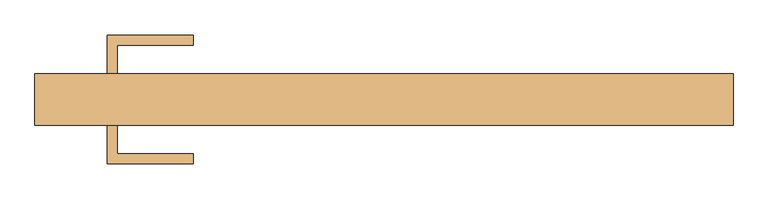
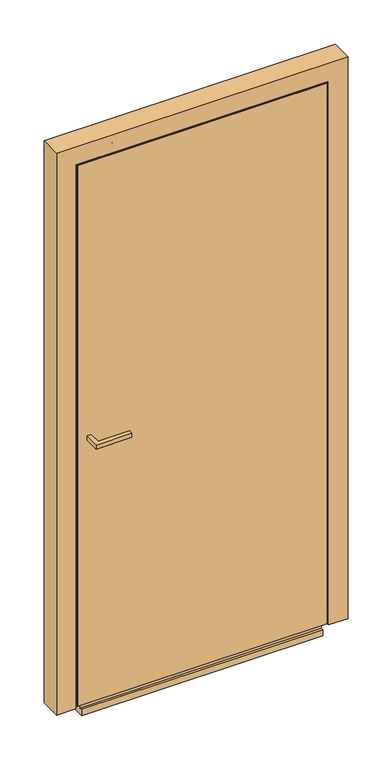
"""IFC4 building model written with IfcOpenShell, lengths in millimetres: door geometry, Reynaers_MasterLine 8_Door_Pivot_Inward Opening_Single Vent_Panel : Reynaers_MasterLine 8_Door_Pivot_Inward Opening_Single Vent_Panel."""

from ifc_helpers import new_model, si_unit, frame, origin, origin_with_axes, place, context, project, spatial, polyline, circle_curve, ellipse_curve, outline, extrude, faceted_brep, source, transform, mapped, element, save
from ifc_brep_helpers import plane_surface, revolved_surface, advanced_brep


def door_040fce94(model_context):
    return source(origin(), model_context, "Body", "SolidModel", [
        extrude(outline(polyline([(-412.0, -27.0), (-397.0, -27.0), (-397.0, -69.5), (-284.5, -69.5), (-284.5, -84.5), (-412.0, -84.5), (-412.0, -27.0)])), frame((0.0, 0.0, 1000.0), z_axis=(0.0, 0.0, 1.0), x_axis=(1.0, 0.0, 0.0)), (0.0, 0.0, 1.0), 15.0),
        extrude(outline(polyline([(-412.0, 50.0), (-412.0, 107.5), (-284.5, 107.5), (-284.5, 92.5), (-397.0, 92.5), (-397.0, 50.0), (-412.0, 50.0)])), frame((0.0, 0.0, 1000.0), z_axis=(0.0, 0.0, 1.0), x_axis=(1.0, 0.0, 0.0)), (0.0, 0.0, 1.0), 15.0),
        extrude(outline(polyline([(-430.5, 7.9556368), (430.5, 7.9556368), (430.5, -16.0443635), (-430.5, -16.0443635), (-430.5, 7.9556368)])), origin_with_axes(), (0.0, 0.0, 1.0), 29.0),
        advanced_brep(
        [(-277.0, 49.9998135, 2056.5000055), (-277.0, 49.9998135, 2025.5000055), (-277.0, 41.2, 2025.5000055), (-277.0, 41.2, 2027.6677934), (-277.0, 40.0850084, 2030.5), (-277.0, -18.2000028, 2030.5), (-277.0, -18.2000028, 2056.5000055), (471.5, 49.9998135, 0.0), (471.5, 46.2008135, 0.0), (456.5000055, 46.2008135, 0.0), (456.5000055, -18.2000028, 0.0), (430.5, -18.2000028, 0.0), (430.5, 40.0850084, 0.0), (427.6677934, 41.2, 0.0), (425.5000055, 41.2, 0.0), (425.5000055, 49.9998135, 0.0), (471.5, 49.9998135, 2071.5), (-200.0, 49.9998135, 2071.5), (-200.0, 46.2008135, 2071.5), (471.5, 46.2008135, 2071.5), (-200.0, 46.2008135, 2056.5000055), (456.5000055, 46.2008135, 2056.5000055), (456.5000055, -18.2000028, 2056.5000055), (-200.0, 49.9998135, 2056.5000055), (430.5, -18.2000028, 2030.5), (430.5, 40.0850084, 2030.5), (427.6677934, 41.2, 2027.6677934), (425.5000055, 41.2, 2025.5000055), (425.5000055, 49.9998135, 2025.5000055)],
        [
            (0, 1),
            (1, 2),
            (2, 3),
            (3, 4, circle_curve(frame((-277.0, 41.7014065, 2029.5007685), z_axis=(1.0, 0.0, 0.0), x_axis=(0.0, 0.0, -1.0)), 1.9003175)),
            (4, 5),
            (5, 6),
            (6, 0),
            (7, 8),
            (8, 9),
            (9, 10),
            (10, 11),
            (11, 12),
            (12, 13, circle_curve(frame((429.5007685, 41.7014065, 0.0), z_axis=(0.0, 0.0, 1.0), x_axis=(-1.0, 0.0, 0.0)), 1.9003175)),
            (13, 14),
            (14, 15),
            (15, 7),
            (16, 17),
            (17, 18),
            (18, 19),
            (19, 16),
            (8, 19),
            (18, 20),
            (20, 21),
            (21, 9),
            (6, 22),
            (22, 21),
            (20, 23),
            (23, 0),
            (5, 24),
            (24, 11),
            (10, 22),
            (4, 25),
            (25, 24),
            (3, 26),
            (26, 25, ellipse_curve(frame((429.5007685, 41.7014065, 2029.5007685), z_axis=(0.7071067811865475, 0.0, -0.7071067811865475), x_axis=(0.7071067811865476, 0.0, 0.7071067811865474)), 2.6874548, 1.9003175)),
            (2, 27),
            (27, 14),
            (13, 26),
            (1, 28),
            (28, 27),
            (15, 28),
            (23, 17),
            (16, 7),
            (25, 12),
        ],
        [
            plane_surface(frame((-277.0, 50.0, 2019.5), z_axis=(-1.0, 0.0, 0.0), x_axis=(0.0, -1.0, 0.0))),
            plane_surface(frame((419.5, 50.0, 0.0), z_axis=(0.0, 0.0, -1.0), x_axis=(0.0, -1.0, 0.0))),
            plane_surface(frame((-277.0, 49.9998135, 2071.5), z_axis=(0.0, 0.0, 1.0), x_axis=(1.0, 0.0, 0.0))),
            plane_surface(frame((-277.0, 46.2008135, 2071.5), z_axis=(0.0, -1.0, 0.0), x_axis=(1.0, 0.0, 0.0))),
            plane_surface(frame((-277.0, 46.2008135, 2056.5000055), z_axis=(0.0, 0.0, 1.0), x_axis=(1.0, 0.0, 0.0))),
            plane_surface(frame((-277.0, -18.2000028, 2056.5000055), z_axis=(0.0, -1.0, 0.0), x_axis=(1.0, 0.0, 0.0))),
            plane_surface(frame((-277.0, -18.2000028, 2030.5), z_axis=(0.0, 0.0, -1.0), x_axis=(1.0, 0.0, 0.0))),
            revolved_surface(polyline([(431.4010860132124, 41.7014065, 2027.600451), (-277.0, 41.7014065, 2027.600451)]), (-277.0, 41.7014065, 2029.5007685), (1.0, 0.0, 0.0)),
            plane_surface(frame((-277.0, 41.2, 2027.6677934), z_axis=(0.0, -1.0, 0.0), x_axis=(1.0, 0.0, 0.0))),
            plane_surface(frame((-277.0, 41.2, 2025.5000055), z_axis=(0.0, 0.0, -1.0), x_axis=(1.0, 0.0, 0.0))),
            plane_surface(frame((-277.0, 49.9998135, 2025.5000055), z_axis=(0.0, 1.0, 0.0), x_axis=(1.0, 0.0, 0.0))),
            plane_surface(frame((471.5, 49.9998135, 2071.5), z_axis=(1.0, 0.0, 0.0), x_axis=(0.0, 0.0, -1.0))),
            plane_surface(frame((456.5000055, 46.2008135, 2056.5000055), z_axis=(1.0, 0.0, 0.0), x_axis=(0.0, 0.0, -1.0))),
            plane_surface(frame((430.5, -18.2000028, 2030.5), z_axis=(-1.0, 0.0, 0.0), x_axis=(0.0, 0.0, -1.0))),
            revolved_surface(polyline([(427.60045099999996, 41.7014065, 0.0), (427.60045099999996, 41.7014065, 2031.4010860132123)]), (429.5007685, 41.7014065, 2019.5), (0.0, 0.0, -1.0)),
            plane_surface(frame((425.5000055, 41.2, 2025.5000055), z_axis=(-1.0, 0.0, 0.0), x_axis=(0.0, 0.0, -1.0))),
            plane_surface(frame((-200.0, 50.0, 2019.5), z_axis=(-1.0, 0.0, 0.0), x_axis=(0.0, -1.0, 0.0))),
        ],
        [
            (0, [[1, 2, 3, 4, 5, 6, 7]]),
            (1, [[8, 9, 10, 11, 12, 13, 14, 15, 16]]),
            (2, [[17, 18, 19, 20]]),
            (3, [[21, -19, 22, 23, 24, -9]]),
            (4, [[-7, 25, 26, -23, 27, 28]]),
            (5, [[29, 30, -11, 31, -25, -6]]),
            (6, [[32, 33, -29, -5]]),
            (7, [[34, 35, -32, -4]]),
            (8, [[36, 37, -14, 38, -34, -3]]),
            (9, [[39, 40, -36, -2]]),
            (10, [[41, -39, -1, -28, 42, -17, 43, -16]]),
            (11, [[-43, -20, -21, -8]]),
            (12, [[-24, -26, -31, -10]]),
            (13, [[-30, -33, 44, -12]]),
            (14, [[-44, -35, -38, -13]]),
            (15, [[-37, -40, -41, -15]]),
            (16, [[-22, -18, -42, -27]]),
        ],
    ),
        advanced_brep(
        [(-471.5, 49.9998135, 0.0), (-425.5000055, 49.9998135, 0.0), (-425.5000055, 41.2, 0.0), (-427.6677934, 41.2, 0.0), (-430.5, 40.0850084, 0.0), (-430.5, -18.2000028, 0.0), (-456.5000055, -18.2000028, 0.0), (-456.5000055, 46.2008135, 0.0), (-471.5, 46.2008135, 0.0), (-200.0, 46.2008135, 2056.5000055), (-200.0, 49.9998135, 2056.5000055), (-200.0, 49.9998135, 2071.5), (-200.0, 46.2008135, 2071.5), (-471.5, 49.9998135, 2071.5), (-471.5, 46.2008135, 2071.5), (-456.5000055, -18.2000028, 2056.5000055), (-277.0, -18.2000028, 2056.5000055), (-277.0, 46.2008135, 2056.5000055), (-456.5000055, 46.2008135, 2056.5000055), (-430.5, 40.0850084, 2030.5), (-277.0, 40.0850084, 2030.5), (-277.0, -18.2000028, 2030.5), (-430.5, -18.2000028, 2030.5), (-427.6677934, 41.2, 2027.6677934), (-277.0, 41.2, 2027.6677934), (-425.5000055, 49.9998135, 2025.5000055), (-277.0, 49.9998135, 2025.5000055), (-277.0, 41.2, 2025.5000055), (-425.5000055, 41.2, 2025.5000055), (-277.0, 49.9998135, 2056.5000055)],
        [
            (0, 1),
            (1, 2),
            (2, 3),
            (3, 4, circle_curve(frame((-429.5007685, 41.7014065, 0.0), z_axis=(0.0, 0.0, 1.0), x_axis=(1.0, 0.0, 0.0)), 1.9003175)),
            (4, 5),
            (5, 6),
            (6, 7),
            (7, 8),
            (8, 0),
            (9, 10),
            (10, 11),
            (11, 12),
            (12, 9),
            (11, 13),
            (13, 14),
            (14, 12),
            (15, 16),
            (16, 17),
            (17, 18),
            (18, 15),
            (19, 20),
            (20, 21),
            (21, 22),
            (22, 19),
            (23, 24),
            (24, 20, circle_curve(frame((-277.0, 41.7014065, 2029.5007685), z_axis=(1.0, 0.0, 0.0), x_axis=(0.0, 0.0, -1.0)), 1.9003175)),
            (19, 23, ellipse_curve(frame((-429.5007685, 41.7014065, 2029.5007685), z_axis=(-0.7071067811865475, 0.0, -0.7071067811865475), x_axis=(0.7071067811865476, 0.0, -0.7071067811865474)), 2.6874548, 1.9003175)),
            (25, 26),
            (26, 27),
            (27, 28),
            (28, 25),
            (8, 14),
            (13, 0),
            (7, 18),
            (17, 9),
            (6, 15),
            (5, 22),
            (21, 16),
            (4, 19),
            (3, 23),
            (2, 28),
            (27, 24),
            (1, 25),
            (10, 29),
            (29, 26),
            (29, 17),
        ],
        [
            plane_surface(frame((-419.5, 50.0, 0.0), z_axis=(0.0, 0.0, -1.0), x_axis=(0.0, -1.0, 0.0))),
            plane_surface(frame((-200.0, 50.0, 2019.5), z_axis=(1.0, 0.0, 0.0), x_axis=(0.0, -1.0, 0.0))),
            plane_surface(frame((-471.5, 49.9998135, 2071.5), z_axis=(0.0, 0.0, 1.0), x_axis=(1.0, 0.0, 0.0))),
            plane_surface(frame((-456.5000055, 46.2008135, 2056.5000055), z_axis=(0.0, 0.0, 1.0), x_axis=(1.0, 0.0, 0.0))),
            plane_surface(frame((-430.5, -18.2000028, 2030.5), z_axis=(0.0, 0.0, -1.0), x_axis=(1.0, 0.0, 0.0))),
            revolved_surface(polyline([(-277.0, 41.7014065, 2027.600451), (-431.4010860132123, 41.7014065, 2027.600451)]), (-419.5, 41.7014065, 2029.5007685), (1.0, 0.0, 0.0)),
            plane_surface(frame((-425.5000055, 41.2, 2025.5000055), z_axis=(0.0, 0.0, -1.0), x_axis=(1.0, 0.0, 0.0))),
            plane_surface(frame((-471.5, 49.9998135, 0.0), z_axis=(-1.0, 0.0, 0.0), x_axis=(0.0, 0.0, 1.0))),
            plane_surface(frame((-471.5, 46.2008135, 0.0), z_axis=(0.0, -1.0, 0.0), x_axis=(0.0, 0.0, 1.0))),
            plane_surface(frame((-456.5000055, 46.2008135, 0.0), z_axis=(-1.0, 0.0, 0.0), x_axis=(0.0, 0.0, 1.0))),
            plane_surface(frame((-456.5000055, -18.2000028, 0.0), z_axis=(0.0, -1.0, 0.0), x_axis=(0.0, 0.0, 1.0))),
            plane_surface(frame((-430.5, -18.2000028, 0.0), z_axis=(1.0, 0.0, 0.0), x_axis=(0.0, 0.0, 1.0))),
            revolved_surface(polyline([(-427.60045099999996, 41.7014065, 2031.4010860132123), (-427.60045099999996, 41.7014065, 0.0)]), (-429.5007685, 41.7014065, 0.0), (0.0, 0.0, 1.0)),
            plane_surface(frame((-427.6677934, 41.2, 0.0), z_axis=(0.0, -1.0, 0.0), x_axis=(0.0, 0.0, 1.0))),
            plane_surface(frame((-425.5000055, 41.2, 0.0), z_axis=(1.0, 0.0, 0.0), x_axis=(0.0, 0.0, 1.0))),
            plane_surface(frame((-425.5000055, 49.9998135, 0.0), z_axis=(0.0, 1.0, 0.0), x_axis=(0.0, 0.0, 1.0))),
            plane_surface(frame((-277.0, 50.0, 2019.5), z_axis=(1.0, 0.0, 0.0), x_axis=(0.0, -1.0, 0.0))),
            plane_surface(frame((-277.0, 49.9998135, 2056.5000055), z_axis=(0.0, 0.0, -1.0), x_axis=(1.0, 0.0, 0.0))),
        ],
        [
            (0, [[1, 2, 3, 4, 5, 6, 7, 8, 9]]),
            (1, [[10, 11, 12, 13]]),
            (2, [[14, 15, 16, -12]]),
            (3, [[17, 18, 19, 20]]),
            (4, [[21, 22, 23, 24]]),
            (5, [[25, 26, -21, 27]]),
            (6, [[28, 29, 30, 31]]),
            (7, [[32, -15, 33, -9]]),
            (8, [[34, -19, 35, -13, -16, -32, -8]]),
            (9, [[36, -20, -34, -7]]),
            (10, [[37, -23, 38, -17, -36, -6]]),
            (11, [[39, -24, -37, -5]]),
            (12, [[40, -27, -39, -4]]),
            (13, [[41, -30, 42, -25, -40, -3]]),
            (14, [[43, -31, -41, -2]]),
            (15, [[-33, -14, -11, 44, 45, -28, -43, -1]]),
            (16, [[-18, -38, -22, -26, -42, -29, -45, 46]]),
            (17, [[-44, -10, -35, -46]]),
        ],
    ),
        extrude(outline(polyline([(50.0, 0.0), (50.0, -33.0), (-27.0, -33.0), (-27.0, -10.0), (-18.1943844, -10.0), (-18.1943844, 0.0), (50.0, 0.0)])), frame((-430.5, 0.0, 0.0), z_axis=(1.0, 0.0, 0.0), x_axis=(0.0, 1.0, 0.0)), (0.0, 0.0, 1.0), 861.0),
        faceted_brep([(-451.5, -23.2001836, 0.0), (-451.5, -27.0, 0.0), (-520.0, -27.0, 0.0), (-520.0, 50.0, 0.0), (-477.5, 50.0, 0.0), (-477.5, 41.2, 0.0), (-466.5, 41.2, 0.0), (-466.5, -23.2001836, 0.0), (-466.5, -23.2001836, 2066.5), (466.5, -23.2001836, 2066.5), (466.5, -23.2001836, 0.0), (451.5, -23.2001836, 0.0), (451.5, -23.2001836, 2051.5), (-451.5, -23.2001836, 2051.5), (-520.0, -27.0, 2120.0), (-520.0, 50.0, 2120.0), (-451.5, -27.0, 2051.5), (451.5, -27.0, 2051.5), (451.5, -27.0, 0.0), (520.0, -27.0, 0.0), (520.0, -27.0, 2120.0), (520.0, 50.0, 2120.0), (466.5, 41.2, 0.0), (477.5, 41.2, 0.0), (477.5, 50.0, 0.0), (520.0, 50.0, 0.0), (-466.5, 41.2, 2066.5), (477.5, 50.0, 2077.5), (-477.5, 50.0, 2077.5), (466.5, 41.2, 2066.5), (-477.5, 41.2, 2077.5), (477.5, 41.2, 2077.5)], [[[0, 1, 2, 3, 4, 5, 6, 7]], [[7, 8, 9, 10, 11, 12, 13, 0]], [[2, 14, 15, 3]], [[1, 16, 17, 18, 19, 20, 14, 2]], [[0, 13, 16, 1]], [[14, 20, 21, 15]], [[13, 12, 17, 16]], [[11, 10, 22, 23, 24, 25, 19, 18]], [[20, 19, 25, 21]], [[12, 11, 18, 17]], [[6, 26, 8, 7]], [[3, 15, 21, 25, 24, 27, 28, 4]], [[26, 29, 9, 8]], [[29, 22, 10, 9]], [[5, 30, 31, 23, 22, 29, 26, 6]], [[4, 28, 30, 5]], [[28, 27, 31, 30]], [[27, 24, 23, 31]]]),
        faceted_brep([(-368.0, 47.0, 1968.0), (368.0, 47.0, 1968.0), (368.0, -24.0, 1968.0), (-368.0, -24.0, 1968.0), (-419.5, 41.2, 2019.5), (419.5, 41.2, 2019.5), (419.5, 47.0, 2019.5), (-419.5, 47.0, 2019.5), (368.0, 47.0, 91.5), (368.0, -24.0, 91.5), (419.5, 41.2, 40.0), (419.5, 47.0, 40.0), (-368.0, 47.0, 91.5), (-368.0, -24.0, 91.5), (-419.5, 41.2, 40.0), (-419.5, 47.0, 40.0), (-430.5, 41.2, 2030.5), (430.5, 41.2, 2030.5), (430.5, 41.2, 29.0), (-430.5, 41.2, 29.0), (-430.5, -18.2001837, 2030.5), (430.5, -18.2001837, 2030.5), (-419.5, -24.0, 2019.5), (419.5, -24.0, 2019.5), (419.5, -18.2001837, 2019.5), (-419.5, -18.2001837, 2019.5), (430.5, -18.2001837, 29.0), (419.5, -24.0, 40.0), (419.5, -18.2001837, 40.0), (-430.5, -18.2001837, 29.0), (-419.5, -24.0, 40.0), (-419.5, -18.2001837, 40.0)], [[[0, 1, 2, 3]], [[4, 5, 6, 7]], [[1, 8, 9, 2]], [[5, 10, 11, 6]], [[8, 12, 13, 9]], [[10, 14, 15, 11]], [[12, 0, 3, 13]], [[7, 6, 11, 15], [1, 0, 12, 8]], [[14, 4, 7, 15]], [[16, 17, 18, 19], [5, 4, 14, 10]], [[20, 21, 17, 16]], [[22, 23, 24, 25]], [[21, 26, 18, 17]], [[23, 27, 28, 24]], [[26, 29, 19, 18]], [[27, 30, 31, 28]], [[29, 20, 16, 19]], [[21, 20, 29, 26], [25, 24, 28, 31]], [[30, 22, 25, 31]], [[23, 22, 30, 27], [3, 2, 9, 13]]]),
        extrude(outline(polyline([(445.5, -27.0), (-445.5, -27.0), (-445.5, -24.0), (445.5, -24.0), (445.5, -27.0)])), frame((0.0, 0.0, 7.0), z_axis=(0.0, 0.0, 1.0), x_axis=(1.0, 0.0, 0.0)), (0.0, 0.0, 1.0), 2038.5),
        extrude(outline(polyline([(419.5, 47.0), (-419.5, 47.0), (-419.5, 50.0), (419.5, 50.0), (419.5, 47.0)])), frame((0.0, 0.0, 7.0), z_axis=(0.0, 0.0, 1.0), x_axis=(1.0, 0.0, 0.0)), (0.0, 0.0, 1.0), 2012.5),
        extrude(outline(polyline([(363.0, 47.0), (363.0, -24.0), (-363.0, -24.0), (-363.0, 47.0), (363.0, 47.0)])), frame((0.0, 0.0, 96.5), z_axis=(0.0, 0.0, 1.0), x_axis=(1.0, 0.0, 0.0)), (0.0, 0.0, 1.0), 1866.5),
    ])


if __name__ == "__main__":
    model = new_model("IFC4")
    model_context = context("Model", 3, world=origin())
    ifc_project = project(units=[si_unit("LENGTHUNIT", "METRE", prefix="MILLI")], contexts=[model_context])
    site = spatial("IfcSite", under=ifc_project)
    building = spatial("IfcBuilding", under=site)
    placement = place(None, origin())
    door_shape = door_040fce94(model_context)
    element("IfcDoor", 1, ObjectType="Reynaers_MasterLine 8_Door_Pivot_Inward Opening_Single Vent_Panel : Reynaers_MasterLine 8_Door_Pivot_Inward Opening_Single Vent_Panel", at=placement, inside=building, context=model_context, shape_type="MappedRepresentation", body=[
        mapped(door_shape, transform((0.0, 0.0, 0.0), x_axis=(1.0, 0.0, 0.0), y_axis=(0.0, 1.0, 0.0), z_axis=(0.0, 0.0, 1.0))),
    ])
    save(model, "model.ifc")
